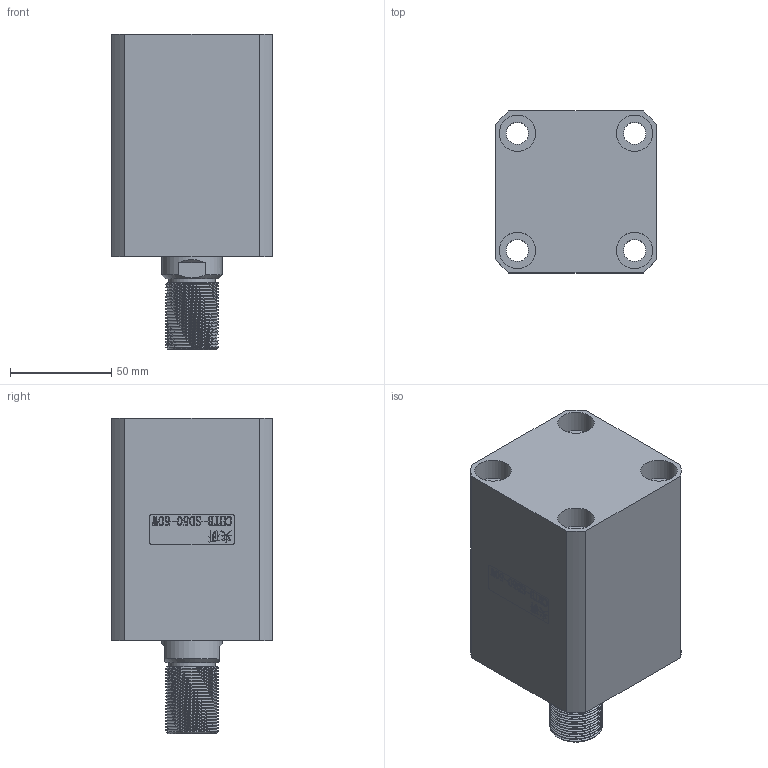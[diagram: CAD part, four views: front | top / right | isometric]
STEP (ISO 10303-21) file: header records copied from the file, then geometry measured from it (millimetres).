
FILE_DESCRIPTION(/* description */ (''),/* implementation_level */ '2;1');
FILE_NAME(/* name */ 'CHTB-SD50-50W.stp',/* time_stamp */ '2022-04-29T18:16:47+08:00',/* author */ (''),/* organization */ (''),/* preprocessor_version */ 'ST-DEVELOPER v16.7',/* originating_system */ 'SIEMENS PLM Software NX 12.0',/* authorisation */ '');
FILE_SCHEMA (('AUTOMOTIVE_DESIGN { 1 0 10303 214 3 1 1 1 }'));
Length unit declared in the file: millimetre
Products named in the file (1): CHTB-SD50-50W
Bounding box: 80 x 80 x 156 mm (x, y, z)
Volume: 593520.6 mm3; surface area: 116393.1 mm2
Topology: 3 solids, 3 shells, 409 faces, 1170 edges, 816 vertices
Faces by surface type: plane 252, extrusion 78, cylinder 49, torus 11, bspline 10, cone 9
Full cylindrical faces by diameter (mm): 4 x4, 10.7 x2, 11 x4, 18 x8, 23 x1, 30 x2, 39 x1, 46 x1, 50 x5, 55 x9, 59 x1
Entity records: 22297 total; most frequent: CARTESIAN_POINT 10535, ORIENTED_EDGE 2182, DIRECTION 1569, EDGE_CURVE 1091, VERTEX_POINT 801, VECTOR 743, LINE 665, EDGE_LOOP 516
